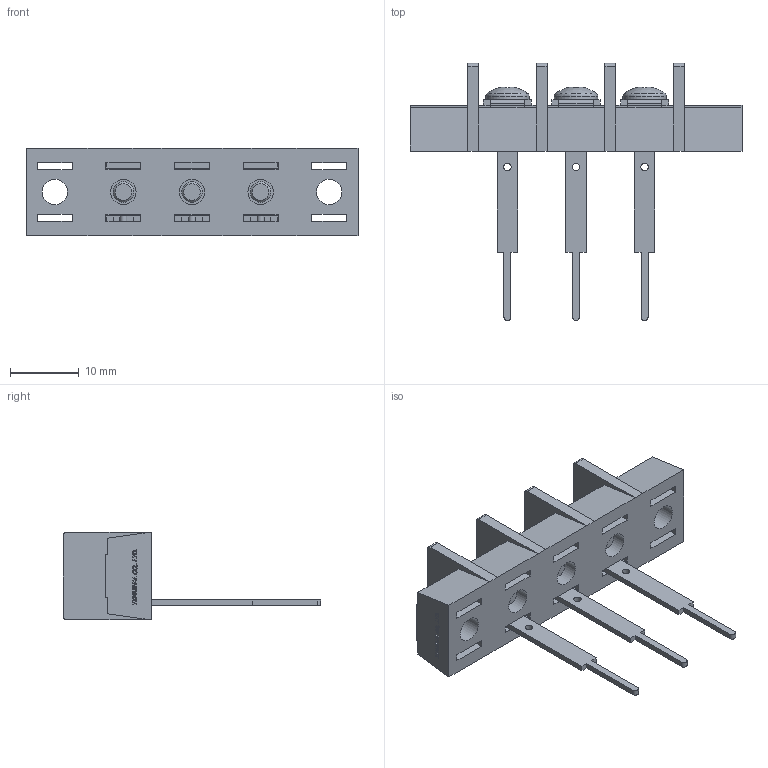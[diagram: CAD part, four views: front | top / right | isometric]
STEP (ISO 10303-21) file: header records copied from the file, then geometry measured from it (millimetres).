
FILE_DESCRIPTION(/* description */ ('Alibre Inc.'),/* implementation_level */ '2;1');
FILE_NAME(/* name */ 'export0',/* time_stamp */ '2015-10-22T20:23:21+09:00',/* author */ (''),/* organization */ (''),/* preprocessor_version */ 'ST-DEVELOPER v14',/* originating_system */ 'Alibre',/* authorisation */ '');
FILE_SCHEMA (('CONFIG_CONTROL_DESIGN'));
Length unit declared in the file: centimetre
Products named in the file (1): ID_1
Bounding box: 48.4 x 37.5 x 12.8 mm (x, y, z)
Volume: 4133.3 mm3; surface area: 5045.3 mm2
Topology: 1 solids, 52 shells, 1270 faces, 3295 edges, 2183 vertices
Faces by surface type: plane 947, bspline 260, cylinder 39, cone 15, torus 6, sphere 3
Full cylindrical faces by diameter (mm): 1.1 x3, 3 x6, 3.7 x5, 4.6 x5, 6.3 x3
Entity records: 37150 total; most frequent: CARTESIAN_POINT 9038, ORIENTED_EDGE 6512, DIRECTION 3837, EDGE_CURVE 3256, VECTOR 2527, LINE 2527, VERTEX_POINT 2175, EDGE_LOOP 1415
